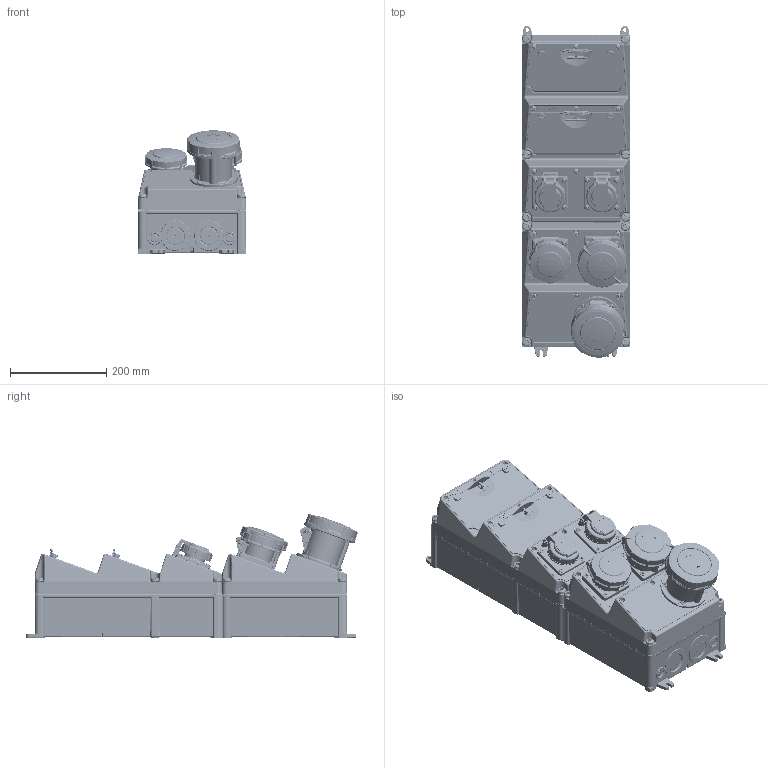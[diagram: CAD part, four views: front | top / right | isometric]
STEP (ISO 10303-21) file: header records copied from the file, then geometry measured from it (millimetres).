
FILE_DESCRIPTION((''),'2;1');
FILE_NAME('950031-4_ASM_1_ASM','2018-06-18T',('prakek'),('MENNEKES'),'PRO/ENGINEER BY PARAMETRIC TECHNOLOGY CORPORATION, 2015440','PRO/ENGINEER BY PARAMETRIC TECHNOLOGY CORPORATION, 2015440','');
FILE_SCHEMA(('AUTOMOTIVE_DESIGN { 1 0 10303 214 1 1 1 1 }'));
Products named in the file (16): 5-4_SW_O_GRAU_1; MANIFOLD_SOLID_BREP_336600; MANIFOLD_SOLID_BREP_424963; MANIFOLD_SOLID_BREP_425300; MANIFOLD_SOLID_BREP_427779; FI_4POL_4TE_1_ASM; LS_3POL_3TE_1; LS_1POL_1TE_1; MP_LEER_GRAU_1; MP_FEN10_67_OBEN_GRAU_1; BAUTEIL_DUMMY__1; AMAXX_CEE_63_5_67_ROT_1; FL85X75_CEE_32_5_67_ROT_1; FL75X75_CEE_16_5_67_ROT_1; SCHUKO_67_BLAU_1; 950031-4_ASM_1_ASM
Assembly tree (21 placements, depth 3):
  950031-4_ASM_1_ASM
    5-4_SW_O_GRAU_1
    FI_4POL_4TE_1_ASM
      MANIFOLD_SOLID_BREP_336600
      MANIFOLD_SOLID_BREP_424963
      MANIFOLD_SOLID_BREP_425300
      MANIFOLD_SOLID_BREP_427779
    LS_3POL_3TE_1  x2
    LS_1POL_1TE_1  x2
    MP_LEER_GRAU_1  x3
    MP_FEN10_67_OBEN_GRAU_1  x2
    BAUTEIL_DUMMY__1
    AMAXX_CEE_63_5_67_ROT_1
    FL85X75_CEE_32_5_67_ROT_1
    FL75X75_CEE_16_5_67_ROT_1
    SCHUKO_67_BLAU_1  x2
Bounding box: 225 x 691.41 x 256.92 mm (x, y, z)
Volume: 17259177.5 mm3; surface area: 1803120.9 mm2
Topology: 19 solids, 19 shells, 18007 faces, 49591 edges, 31483 vertices
Faces by surface type: plane 7697, cylinder 4906, bspline 2173, torus 1595, cone 737, sphere 482, extrusion 417
Entity records: 708723 total; most frequent: CARTESIAN_POINT 225102, ORIENTED_EDGE 79258, DIRECTION 67670, EDGE_CURVE 39629, VERTEX_POINT 25238, AXIS2_PLACEMENT_3D 24297, PRESENTATION_STYLE_ASSIGNMENT 23063, STYLED_ITEM 21124
